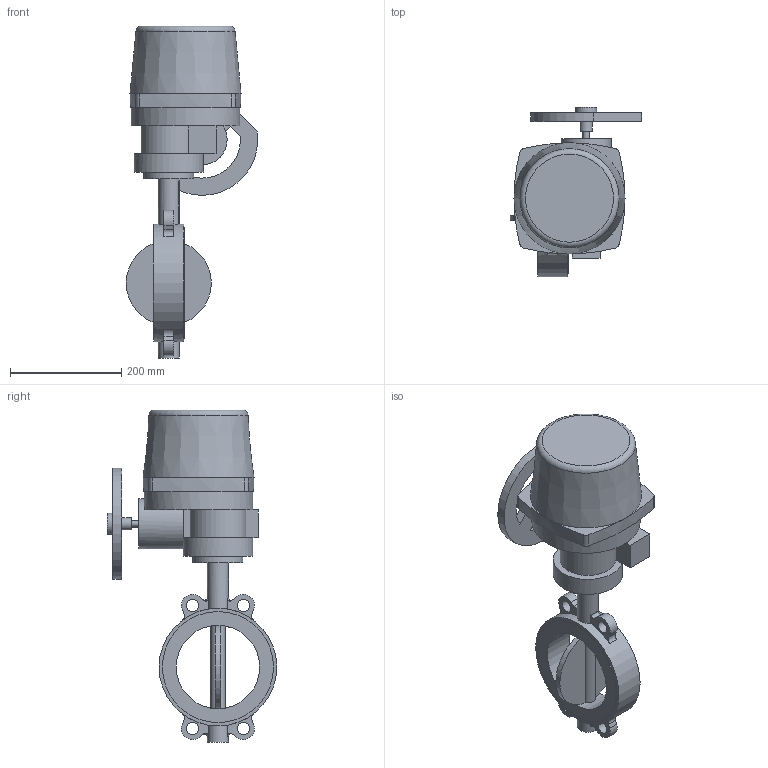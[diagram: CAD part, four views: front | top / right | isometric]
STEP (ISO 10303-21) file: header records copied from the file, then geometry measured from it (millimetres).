
FILE_DESCRIPTION(('STEP AP203'), '1');
FILE_NAME('青蜮铕 015WDN150+菹 QT20-1', '', ('UNSPECIFIED'), ('UNSPECIFIED'), 'ASCON STEP Converter 1.6', 'ASCON Math Kernel', '');
FILE_SCHEMA(('CONFIG_CONTROL_DESIGN'));
Length unit declared in the file: millimetre
Bounding box: 236.45 x 305.5 x 598 mm (x, y, z)
Volume: 7170702.6 mm3; surface area: 492874.9 mm2
Topology: 1 solids, 2 shells, 693 faces, 2014 edges, 1294 vertices
Faces by surface type: cylinder 479, plane 206, bspline 6, cone 1, torus 1
Full cylindrical faces by diameter (mm): 8 x4, 10 x4, 12 x1, 18.9 x1, 22 x5, 38 x3, 55 x1, 90 x2, 125 x1, 150 x1, 195 x1, 200 x2, 212 x1
Entity records: 30622 total; most frequent: CARTESIAN_POINT 5936, DIRECTION 4353, ORIENTED_EDGE 3909, EDGE_CURVE 1986, AXIS2_PLACEMENT_3D 1718, VERTEX_POINT 1294, CIRCLE 1030, LINE 917
